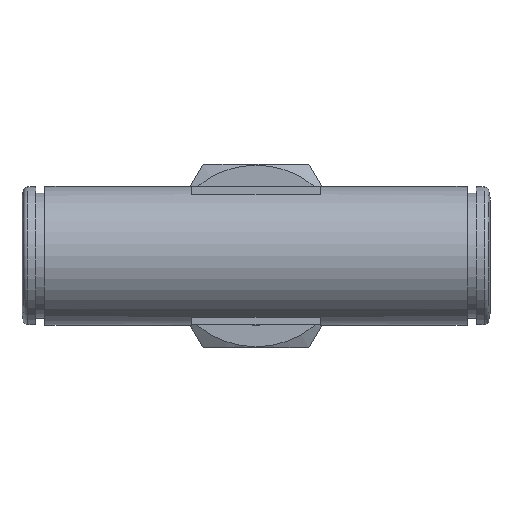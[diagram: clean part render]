
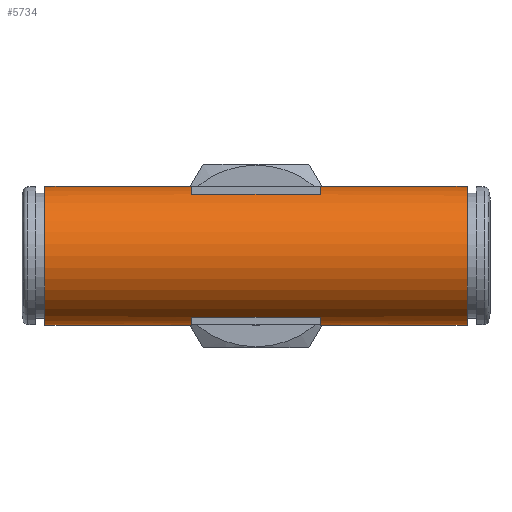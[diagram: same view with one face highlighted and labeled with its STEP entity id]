
A CAD part, top view. The second image highlights one B-rep face of the part: STEP entity #5734.
In plain terms, the highlighted cylindrical face has radius 7.55 mm (diameter 15.1 mm), a full revolution.
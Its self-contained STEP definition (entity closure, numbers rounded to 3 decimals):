
#11=ELLIPSE('',#5580,10.677,7.55);
#12=ELLIPSE('',#5587,10.677,7.55);
#33=VECTOR('',#3629,1.);
#34=VECTOR('',#3636,1.);
#35=VECTOR('',#3639,1.);
#36=VECTOR('',#3646,1.);
#37=VECTOR('',#3653,1.);
#38=VECTOR('',#3656,1.);
#97=LINE('',#5237,#33);
#98=LINE('',#5245,#34);
#99=LINE('',#5249,#35);
#100=LINE('',#5257,#36);
#101=LINE('',#5265,#37);
#102=LINE('',#5269,#38);
#1302=CYLINDRICAL_SURFACE('',#5573,7.55);
#1475=ORIENTED_EDGE('',*,*,#2000,.F.);
#1476=ORIENTED_EDGE('',*,*,#1999,.T.);
#1477=ORIENTED_EDGE('',*,*,#2001,.F.);
#1478=ORIENTED_EDGE('',*,*,#2002,.F.);
#1479=ORIENTED_EDGE('',*,*,#2003,.F.);
#1480=ORIENTED_EDGE('',*,*,#2004,.F.);
#1481=ORIENTED_EDGE('',*,*,#2005,.F.);
#1482=ORIENTED_EDGE('',*,*,#2006,.F.);
#1483=ORIENTED_EDGE('',*,*,#2007,.F.);
#1484=ORIENTED_EDGE('',*,*,#2008,.F.);
#1485=ORIENTED_EDGE('',*,*,#2009,.F.);
#1486=ORIENTED_EDGE('',*,*,#2010,.F.);
#1487=ORIENTED_EDGE('',*,*,#2011,.F.);
#1488=ORIENTED_EDGE('',*,*,#2012,.F.);
#1489=ORIENTED_EDGE('',*,*,#2013,.F.);
#1490=ORIENTED_EDGE('',*,*,#2014,.F.);
#1491=ORIENTED_EDGE('',*,*,#2015,.F.);
#1492=ORIENTED_EDGE('',*,*,#2016,.F.);
#1493=ORIENTED_EDGE('',*,*,#2017,.F.);
#1494=ORIENTED_EDGE('',*,*,#2018,.F.);
#1495=ORIENTED_EDGE('',*,*,#2019,.F.);
#1496=ORIENTED_EDGE('',*,*,#2020,.F.);
#1732=CIRCLE('',#5572,7.55);
#1733=CIRCLE('',#5574,7.55);
#1734=CIRCLE('',#5575,7.55);
#1735=CIRCLE('',#5576,7.55);
#1736=CIRCLE('',#5577,7.55);
#1737=CIRCLE('',#5578,7.55);
#1738=CIRCLE('',#5579,7.55);
#1739=CIRCLE('',#5581,7.55);
#1740=CIRCLE('',#5582,7.55);
#1741=CIRCLE('',#5583,7.55);
#1742=CIRCLE('',#5584,7.55);
#1743=CIRCLE('',#5585,7.55);
#1744=CIRCLE('',#5586,7.55);
#1745=CIRCLE('',#5588,7.55);
#1852=VERTEX_POINT('',#5226);
#1853=VERTEX_POINT('',#5229);
#1854=VERTEX_POINT('',#5231);
#1855=VERTEX_POINT('',#5232);
#1856=VERTEX_POINT('',#5234);
#1857=VERTEX_POINT('',#5236);
#1858=VERTEX_POINT('',#5238);
#1859=VERTEX_POINT('',#5240);
#1860=VERTEX_POINT('',#5242);
#1861=VERTEX_POINT('',#5244);
#1862=VERTEX_POINT('',#5246);
#1863=VERTEX_POINT('',#5248);
#1864=VERTEX_POINT('',#5250);
#1865=VERTEX_POINT('',#5252);
#1866=VERTEX_POINT('',#5254);
#1867=VERTEX_POINT('',#5256);
#1868=VERTEX_POINT('',#5258);
#1869=VERTEX_POINT('',#5260);
#1870=VERTEX_POINT('',#5262);
#1871=VERTEX_POINT('',#5264);
#1872=VERTEX_POINT('',#5266);
#1873=VERTEX_POINT('',#5268);
#1999=EDGE_CURVE('',#1852,#1852,#1732,.T.);
#2000=EDGE_CURVE('',#1853,#1853,#1733,.T.);
#2001=EDGE_CURVE('',#1854,#1855,#1734,.T.);
#2002=EDGE_CURVE('',#1856,#1854,#1735,.T.);
#2003=EDGE_CURVE('',#1857,#1856,#97,.T.);
#2004=EDGE_CURVE('',#1858,#1857,#1736,.T.);
#2005=EDGE_CURVE('',#1859,#1858,#1737,.T.);
#2006=EDGE_CURVE('',#1860,#1859,#1738,.T.);
#2007=EDGE_CURVE('',#1861,#1860,#98,.T.);
#2008=EDGE_CURVE('',#1862,#1861,#11,.T.);
#2009=EDGE_CURVE('',#1863,#1862,#99,.T.);
#2010=EDGE_CURVE('',#1864,#1863,#1739,.T.);
#2011=EDGE_CURVE('',#1865,#1864,#1740,.T.);
#2012=EDGE_CURVE('',#1866,#1865,#1741,.T.);
#2013=EDGE_CURVE('',#1867,#1866,#100,.T.);
#2014=EDGE_CURVE('',#1868,#1867,#1742,.T.);
#2015=EDGE_CURVE('',#1869,#1868,#1743,.T.);
#2016=EDGE_CURVE('',#1870,#1869,#1744,.T.);
#2017=EDGE_CURVE('',#1871,#1870,#101,.T.);
#2018=EDGE_CURVE('',#1872,#1871,#12,.T.);
#2019=EDGE_CURVE('',#1873,#1872,#102,.T.);
#2020=EDGE_CURVE('',#1855,#1873,#1745,.T.);
#2216=EDGE_LOOP('',(#1475));
#2217=EDGE_LOOP('',(#1476));
#2218=EDGE_LOOP('',(#1477,#1478,#1479,#1480,#1481,#1482,#1483,#1484,#1485,
#1486,#1487,#1488,#1489,#1490,#1491,#1492,#1493,#1494,#1495,#1496));
#2406=FACE_BOUND('',#2216,.T.);
#2407=FACE_BOUND('',#2217,.T.);
#2408=FACE_BOUND('',#2218,.T.);
#3619=DIRECTION('',(1.,0.,0.));
#3620=DIRECTION('',(0.,7.55,0.));
#3621=DIRECTION('',(-1.,0.,0.));
#3622=DIRECTION('',(0.,1.,0.));
#3623=DIRECTION('',(1.,0.,0.));
#3624=DIRECTION('',(0.,7.55,0.));
#3625=DIRECTION('',(-1.,0.,0.));
#3626=DIRECTION('',(0.,0.867,-7.5));
#3627=DIRECTION('',(-1.,0.,0.));
#3628=DIRECTION('',(0.,3.5,-6.69));
#3629=DIRECTION('',(14.,0.,0.));
#3630=DIRECTION('',(1.,0.,0.));
#3631=DIRECTION('',(0.,0.867,-7.5));
#3632=DIRECTION('',(1.,0.,0.));
#3633=DIRECTION('',(0.,-0.867,-7.5));
#3634=DIRECTION('',(1.,0.,0.));
#3635=DIRECTION('',(0.,-3.5,-6.69));
#3636=DIRECTION('',(-3.5,0.,0.));
#3637=DIRECTION('',(0.707,-0.707,0.));
#3638=DIRECTION('',(-0.707,-0.707,0.));
#3639=DIRECTION('',(3.5,0.,0.));
#3640=DIRECTION('',(1.,0.,0.));
#3641=DIRECTION('',(0.,-0.867,7.5));
#3642=DIRECTION('',(1.,0.,0.));
#3643=DIRECTION('',(0.,0.867,7.5));
#3644=DIRECTION('',(1.,0.,0.));
#3645=DIRECTION('',(0.,3.5,6.69));
#3646=DIRECTION('',(-14.,0.,0.));
#3647=DIRECTION('',(-1.,0.,0.));
#3648=DIRECTION('',(0.,0.867,7.5));
#3649=DIRECTION('',(-1.,0.,0.));
#3650=DIRECTION('',(0.,-0.867,7.5));
#3651=DIRECTION('',(-1.,0.,0.));
#3652=DIRECTION('',(0.,-3.5,6.69));
#3653=DIRECTION('',(3.5,0.,0.));
#3654=DIRECTION('',(-0.707,-0.707,0.));
#3655=DIRECTION('',(0.707,-0.707,0.));
#3656=DIRECTION('',(-3.5,0.,0.));
#3657=DIRECTION('',(-1.,0.,0.));
#3658=DIRECTION('',(0.,-0.867,-7.5));
#5226=CARTESIAN_POINT('',(15.312,39.674,0.));
#5227=CARTESIAN_POINT('',(15.312,32.124,0.));
#5228=CARTESIAN_POINT('',(61.312,32.124,0.));
#5229=CARTESIAN_POINT('',(61.312,39.674,0.));
#5230=CARTESIAN_POINT('',(61.312,32.124,0.));
#5231=CARTESIAN_POINT('',(45.312,32.992,-7.5));
#5232=CARTESIAN_POINT('',(45.312,31.257,-7.5));
#5233=CARTESIAN_POINT('',(45.312,32.124,0.));
#5234=CARTESIAN_POINT('',(45.312,35.624,-6.69));
#5235=CARTESIAN_POINT('',(45.312,32.124,0.));
#5236=CARTESIAN_POINT('',(31.312,35.624,-6.69));
#5237=CARTESIAN_POINT('',(31.312,35.624,-6.69));
#5238=CARTESIAN_POINT('',(31.312,32.992,-7.5));
#5239=CARTESIAN_POINT('',(31.312,32.124,0.));
#5240=CARTESIAN_POINT('',(31.312,31.257,-7.5));
#5241=CARTESIAN_POINT('',(31.312,32.124,0.));
#5242=CARTESIAN_POINT('',(31.312,28.624,-6.69));
#5243=CARTESIAN_POINT('',(31.312,32.124,0.));
#5244=CARTESIAN_POINT('',(34.812,28.624,-6.69));
#5245=CARTESIAN_POINT('',(34.812,28.624,-6.69));
#5246=CARTESIAN_POINT('',(34.812,28.624,6.69));
#5247=CARTESIAN_POINT('',(38.312,32.124,0.));
#5248=CARTESIAN_POINT('',(31.312,28.624,6.69));
#5249=CARTESIAN_POINT('',(31.312,28.624,6.69));
#5250=CARTESIAN_POINT('',(31.312,31.257,7.5));
#5251=CARTESIAN_POINT('',(31.312,32.124,0.));
#5252=CARTESIAN_POINT('',(31.312,32.992,7.5));
#5253=CARTESIAN_POINT('',(31.312,32.124,0.));
#5254=CARTESIAN_POINT('',(31.312,35.624,6.69));
#5255=CARTESIAN_POINT('',(31.312,32.124,0.));
#5256=CARTESIAN_POINT('',(45.312,35.624,6.69));
#5257=CARTESIAN_POINT('',(45.312,35.624,6.69));
#5258=CARTESIAN_POINT('',(45.312,32.992,7.5));
#5259=CARTESIAN_POINT('',(45.312,32.124,0.));
#5260=CARTESIAN_POINT('',(45.312,31.257,7.5));
#5261=CARTESIAN_POINT('',(45.312,32.124,0.));
#5262=CARTESIAN_POINT('',(45.312,28.624,6.69));
#5263=CARTESIAN_POINT('',(45.312,32.124,0.));
#5264=CARTESIAN_POINT('',(41.812,28.624,6.69));
#5265=CARTESIAN_POINT('',(41.812,28.624,6.69));
#5266=CARTESIAN_POINT('',(41.812,28.624,-6.69));
#5267=CARTESIAN_POINT('',(38.312,32.124,0.));
#5268=CARTESIAN_POINT('',(45.312,28.624,-6.69));
#5269=CARTESIAN_POINT('',(45.312,28.624,-6.69));
#5270=CARTESIAN_POINT('',(45.312,32.124,0.));
#5572=AXIS2_PLACEMENT_3D('',#5227,#3619,#3620);
#5573=AXIS2_PLACEMENT_3D('',#5228,#3621,#3622);
#5574=AXIS2_PLACEMENT_3D('',#5230,#3623,#3624);
#5575=AXIS2_PLACEMENT_3D('',#5233,#3625,#3626);
#5576=AXIS2_PLACEMENT_3D('',#5235,#3627,#3628);
#5577=AXIS2_PLACEMENT_3D('',#5239,#3630,#3631);
#5578=AXIS2_PLACEMENT_3D('',#5241,#3632,#3633);
#5579=AXIS2_PLACEMENT_3D('',#5243,#3634,#3635);
#5580=AXIS2_PLACEMENT_3D('',#5247,#3637,#3638);
#5581=AXIS2_PLACEMENT_3D('',#5251,#3640,#3641);
#5582=AXIS2_PLACEMENT_3D('',#5253,#3642,#3643);
#5583=AXIS2_PLACEMENT_3D('',#5255,#3644,#3645);
#5584=AXIS2_PLACEMENT_3D('',#5259,#3647,#3648);
#5585=AXIS2_PLACEMENT_3D('',#5261,#3649,#3650);
#5586=AXIS2_PLACEMENT_3D('',#5263,#3651,#3652);
#5587=AXIS2_PLACEMENT_3D('',#5267,#3654,#3655);
#5588=AXIS2_PLACEMENT_3D('',#5270,#3657,#3658);
#5734=ADVANCED_FACE('',(#2406,#2407,#2408),#1302,.T.);
